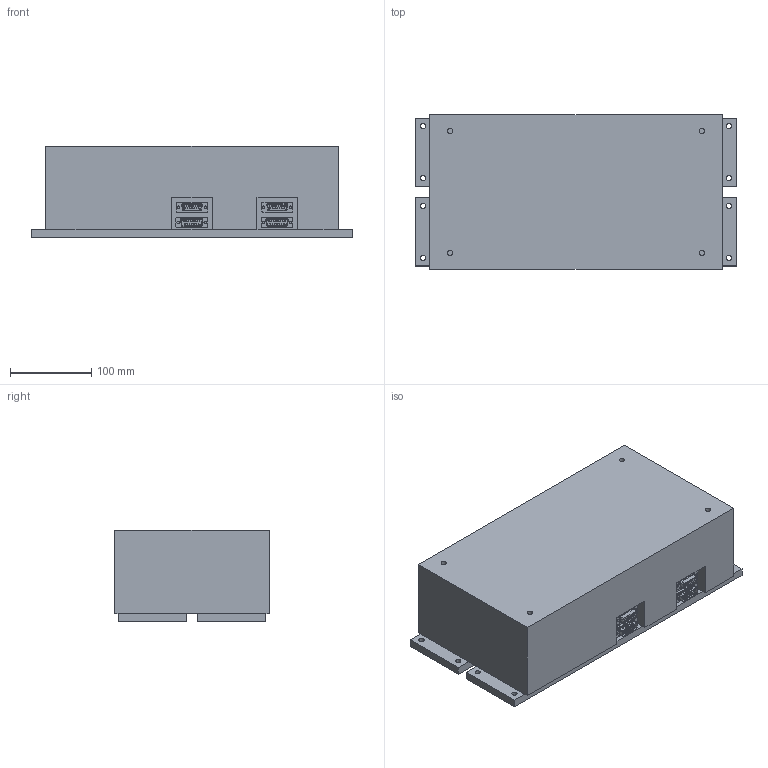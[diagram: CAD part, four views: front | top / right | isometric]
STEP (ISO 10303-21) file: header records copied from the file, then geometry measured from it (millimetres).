
FILE_DESCRIPTION((''),'2;1');
FILE_NAME('C:\Users\Filippo\Desktop\parts for Erwin\AVI-400S-LP\AVI400SLP.stp','2013-08-06T17:11:09',('Filippo'),(''),'Autodesk Inventor 2012','Autodesk Inventor 2012','');
FILE_SCHEMA(('AUTOMOTIVE_DESIGN { 1 0 10303 214 1 1 1 1 }'));
Products named in the file (4): Assembly of AVI400SLP; AVI-400S-LP; D sub 15 S female; D sub 15 P male
Assembly tree (5 placements, depth 2):
  Assembly of AVI400SLP
    AVI-400S-LP
    D sub 15 S female  x2
    D sub 15 P male  x2
Bounding box: 396 x 190 x 112.5 mm (x, y, z)
Volume: 7582729.2 mm3; surface area: 301274.8 mm2
Topology: 5 solids, 5 shells, 1316 faces, 3178 edges, 2032 vertices
Faces by surface type: plane 758, cylinder 424, torus 64, bspline 40, sphere 30
Full cylindrical faces by diameter (mm): 0.991 x60, 1.016 x60, 1.524 x60, 3.048 x8, 6.5 x8, 6.647 x4
Entity records: 21664 total; most frequent: CARTESIAN_POINT 5650, DIRECTION 3334, ORIENTED_EDGE 2988, EDGE_CURVE 1494, AXIS2_PLACEMENT_3D 1204, VERTEX_POINT 1020, VECTOR 926, LINE 926
